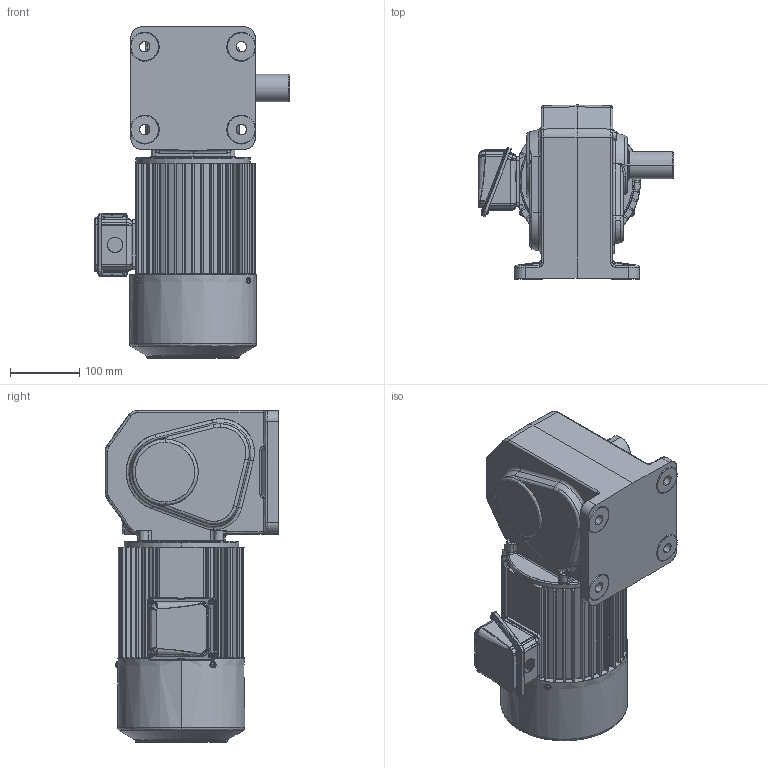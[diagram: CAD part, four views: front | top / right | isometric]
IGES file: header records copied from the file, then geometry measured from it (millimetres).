
Start section: SolidWorks IGES file using analytic representation for surfaces
Global section: file name: \\100.100.100.8\1_共有作業フォルダ\1-5_３Ｄデータ\solidworks\personal-folder\H.Nagayama\HL外形\HL(3D)\igs\TMHLB-15-(5~60)B.IGS; native system: SolidWorks 2018; preprocessor: SolidWorks 2018; author: sigma-giken; date: 200326.115919; units: millimetre
Bounding box: 283 x 252 x 481 mm (x, y, z)
Surface area: 774976.3 mm2 (no closed solid volume)
Topology: 0 solids, 0 shells, 2474 faces, 27402 edges, 27342 vertices
Faces by surface type: bspline 1296, revolution 1178
